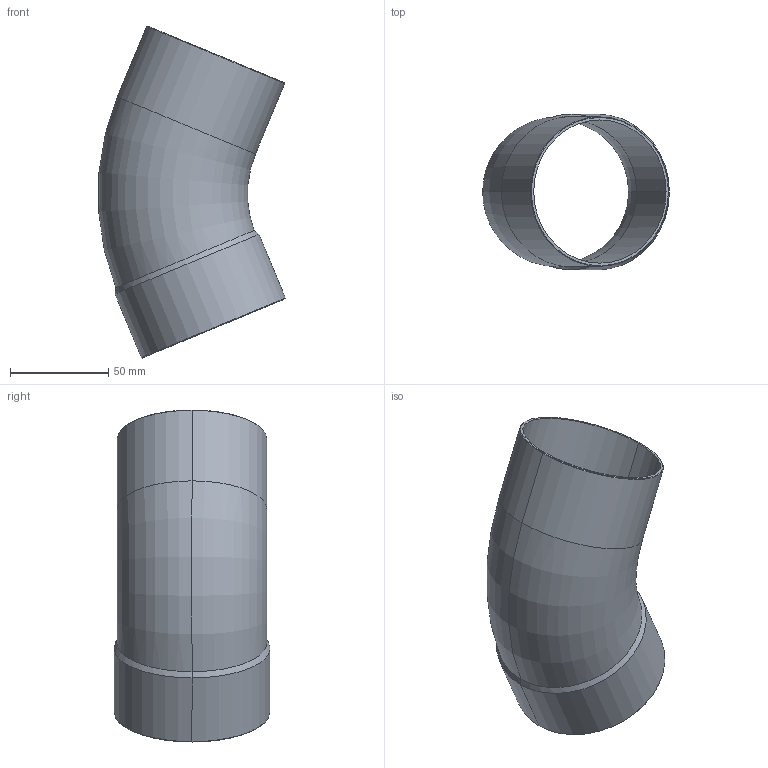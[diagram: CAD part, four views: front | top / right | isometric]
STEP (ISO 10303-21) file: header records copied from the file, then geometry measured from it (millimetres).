
FILE_DESCRIPTION((''),'2;1');
FILE_NAME('P:\Bouwmaten\z-maattekeningen 3D\5000\5040\1504076.stp','2005-10-12T13:34:09',('Kris'),(''),'Autodesk Inventor 8','Autodesk Inventor 8','');
FILE_SCHEMA(('AUTOMOTIVE_DESIGN { 1 0 10303 214 1 1 1 1 }'));
Length unit declared in the file: millimetre
Products named in the file (1): 1504076
Bounding box: 95.05 x 79.3 x 169.01 mm (x, y, z)
Volume: 55794.2 mm3; surface area: 70420.8 mm2
Topology: 1 solids, 1 shells, 24 faces, 50 edges, 28 vertices
Faces by surface type: cone 10, cylinder 8, torus 4, plane 2
Entity records: 729 total; most frequent: CARTESIAN_POINT 179, DIRECTION 124, ORIENTED_EDGE 100, AXIS2_PLACEMENT_3D 53, EDGE_CURVE 50, VERTEX_POINT 28, CIRCLE 28, EDGE_LOOP 26
